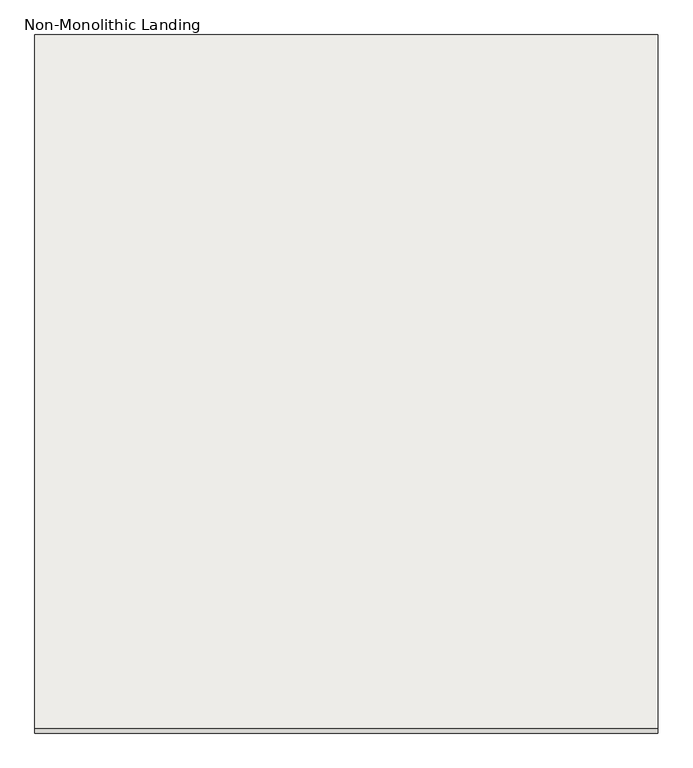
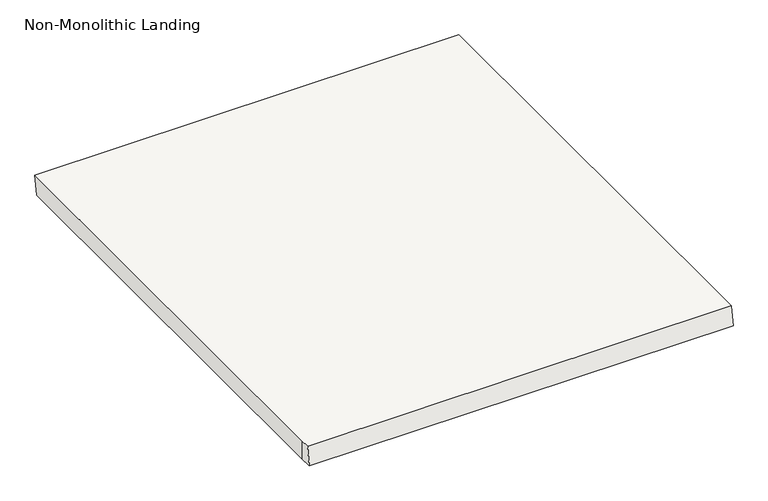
"""IFC4 building model written with IfcOpenShell, lengths in millimetres: slab geometry, Non-Monolithic Landing."""

import ifcopenshell
import ifcopenshell.guid

model = None  # the IFC model being written
_history = None  # IfcOwnerHistory: only IFC2X3 demands one
_inside = {}  # id of a spatial element -> (the spatial element, [elements in it])
_under = {}  # id of a project, library or spatial element -> (it, [spatial elements below it])
_declared = {}  # id of a project -> (the project, [libraries it declares])
_typed = {}  # id of a type object -> (the type object, [elements of that type])
_made_of = {}  # id of a material, layer set ... -> (it, [elements and type objects made of it])


def new_model(schema):
    """Start an empty IFC model of exactly this schema.

    Asked for "IFC4X3", IfcOpenShell would pick the latest addendum, in which some entities
    have other attributes; the version numbers below select the first issue.
    IFC2X3 requires an IfcOwnerHistory on every rooted entity: one is made here for all.
    """
    global model, _history
    if schema == "IFC4X3":
        model = ifcopenshell.file(schema_version=(4, 3, 0, 0))
    else:
        model = ifcopenshell.file(schema=schema)
    _inside.clear()
    _under.clear()
    _declared.clear()
    _typed.clear()
    _made_of.clear()
    _history = None
    if model.schema == "IFC2X3":
        org = make("IfcOrganization", Name="unknown")
        user = make(
            "IfcPersonAndOrganization",
            ThePerson=make("IfcPerson", FamilyName="unknown"),
            TheOrganization=org,
        )
        app = make(
            "IfcApplication",
            ApplicationDeveloper=org,
            Version="unknown",
            ApplicationFullName="unknown",
            ApplicationIdentifier="unknown",
        )
        _history = make(
            "IfcOwnerHistory",
            OwningUser=user,
            OwningApplication=app,
            ChangeAction="ADDED",
            CreationDate=0,
        )
    return model


def make(cls, **values):
    """One entity of the class cls with the attributes given. An attribute that is None is left unset."""
    return model.create_entity(
        cls, **{name: value for name, value in values.items() if value is not None}
    )


def rooted(cls, **values):
    """An entity with a GlobalId (a new one), such as an element, a storey or a relation."""
    return make(cls, GlobalId=ifcopenshell.guid.new(), OwnerHistory=_history, **values)


def si_unit(unit_type, name, prefix=None):
    """IfcSIUnit, for example si_unit("LENGTHUNIT", "METRE", prefix="MILLI")."""
    return make("IfcSIUnit", UnitType=unit_type, Prefix=prefix, Name=name)


def assignment(units):
    """IfcUnitAssignment: the units of a project."""
    return None if units is None else make("IfcUnitAssignment", Units=units)


def point(xyz):
    """IfcCartesianPoint."""
    return None if xyz is None else make("IfcCartesianPoint", Coordinates=xyz)


def direction(xyz):
    """IfcDirection."""
    return None if xyz is None else make("IfcDirection", DirectionRatios=xyz)


def frame(location, z_axis=None, x_axis=None):
    """IfcAxis2Placement3D, a coordinate frame: its origin and axes. An axis left out is left unset."""
    return make(
        "IfcAxis2Placement3D",
        Location=point(location),
        Axis=direction(z_axis),
        RefDirection=direction(x_axis),
    )


def origin():
    """The frame at (0, 0, 0) with its axes left unset."""
    return frame((0.0, 0.0, 0.0))


def place(relative_to, where):
    """IfcLocalPlacement: puts the frame where relative to a parent placement (None: the world)."""
    return make(
        "IfcLocalPlacement", PlacementRelTo=relative_to, RelativePlacement=where
    )


def context(
    kind, dimensions, precision=None, world=None, true_north=None, identifier=None
):
    """IfcGeometricRepresentationContext, for example the 3D "Model" context."""
    return make(
        "IfcGeometricRepresentationContext",
        ContextIdentifier=identifier,
        ContextType=kind,
        CoordinateSpaceDimension=dimensions,
        Precision=precision,
        WorldCoordinateSystem=world,
        TrueNorth=true_north,
    )


def project(units=None, contexts=None):
    """IfcProject with its units and contexts."""
    return rooted(
        "IfcProject",
        Name="project",
        RepresentationContexts=contexts,
        UnitsInContext=assignment(units),
    )


def spatial(cls, under=None, at=None, **own):
    """A site, building, storey or space (cls), placed at a placement, below another one or the project."""
    s = rooted(cls, ObjectPlacement=at, **own)
    if under is not None:
        _under.setdefault(under.id(), (under, []))[1].append(s)
    return s


def faces_of(points, faces, orient=None, outer=None):
    """IfcFace entities. A face is a list of loops; a loop is a list of indices into points, from 0.

    orient and outer hold one flag for each loop. By default every Orientation is true, the
    first loop of a face is its IfcFaceOuterBound and the others are IfcFaceBound.
    """
    made = []
    for i, loops in enumerate(faces):
        bounds = []
        for j, loop in enumerate(loops):
            is_outer = j == 0 if outer is None else outer[i][j]
            bounds.append(
                make(
                    "IfcFaceOuterBound" if is_outer else "IfcFaceBound",
                    Bound=make("IfcPolyLoop", Polygon=[points[k] for k in loop]),
                    Orientation=True if orient is None else orient[i][j],
                )
            )
        made.append(make("IfcFace", Bounds=bounds))
    return made


def faceted_brep(points, faces, orient=None, outer=None, voids=None):
    """IfcFacetedBrep: a solid bounded by flat faces; with voids (closed shells), ...WithVoids."""
    shared = [point(p) for p in points]
    hull = make("IfcClosedShell", CfsFaces=faces_of(shared, faces, orient, outer))
    if voids is None:
        return make("IfcFacetedBrep", Outer=hull)
    return make(
        "IfcFacetedBrepWithVoids",
        Outer=hull,
        Voids=[
            make(cls, CfsFaces=faces_of(shared, fs, o, b)) for cls, fs, o, b in voids
        ],
    )


def shape(context_of_items, identifier, shape_type, items):
    """IfcShapeRepresentation: the items that make up one representation, for example the "Body"."""
    return make(
        "IfcShapeRepresentation",
        ContextOfItems=context_of_items,
        RepresentationIdentifier=identifier,
        RepresentationType=shape_type,
        Items=items,
    )


def source(mapping_origin, context_of_items, identifier, shape_type, items):
    """IfcRepresentationMap: a shape defined once, which mapped items show again and again."""
    return make(
        "IfcRepresentationMap",
        MappingOrigin=mapping_origin,
        MappedRepresentation=shape(context_of_items, identifier, shape_type, items),
    )


def transform(
    local_origin,
    x_axis=None,
    y_axis=None,
    z_axis=None,
    scale=None,
    scale2=None,
    scale3=None,
    uniform=True,
):
    """IfcCartesianTransformationOperator3D, or its non-uniform kind. x_axis, y_axis, z_axis: its Axis1, 2, 3."""
    if uniform:
        return make(
            "IfcCartesianTransformationOperator3D",
            Axis1=direction(x_axis),
            Axis2=direction(y_axis),
            LocalOrigin=point(local_origin),
            Scale=scale,
            Axis3=direction(z_axis),
        )
    return make(
        "IfcCartesianTransformationOperator3DnonUniform",
        Axis1=direction(x_axis),
        Axis2=direction(y_axis),
        LocalOrigin=point(local_origin),
        Scale=scale,
        Axis3=direction(z_axis),
        Scale2=scale2,
        Scale3=scale3,
    )


def mapped(mapping_source, mapping_target):
    """IfcMappedItem: shows the shape of a source again, moved by a transform."""
    return make(
        "IfcMappedItem", MappingSource=mapping_source, MappingTarget=mapping_target
    )


def made_of(thing, what):
    """Note that an element or type object is made of a material, layer set ...; save() writes the relation."""
    if what is not None:
        _made_of.setdefault(what.id(), (what, []))[1].append(thing)
    return thing


def element(
    cls,
    number,
    at=None,
    inside=None,
    cuts=None,
    type_object=None,
    material=None,
    context=None,
    identifier="Body",
    shape_type=None,
    held_by="IfcProductDefinitionShape",
    body=None,
    shapes=None,
    **own,
):
    """One element of the class cls, such as IfcWall. Its Tag is "e" and its number.

    at: its placement. inside: the storey or other place that contains it. cuts: it is an
    opening in that element (IfcRelVoidsElement). A single representation is given by context,
    identifier, shape_type and body (its items); several are given by shapes. held_by: the class
    of the entity that holds the representations. save() writes the other relations.
    """
    e = rooted(cls, Tag="e%d" % number, ObjectPlacement=at, **own)
    if body is not None:
        shapes = [shape(context, identifier, shape_type, body)]
    if shapes is not None:
        e.Representation = make(held_by, Representations=shapes)
    if inside is not None:
        _inside.setdefault(inside.id(), (inside, []))[1].append(e)
    if cuts is not None:
        rooted(
            "IfcRelVoidsElement", RelatingBuildingElement=cuts, RelatedOpeningElement=e
        )
    if type_object is not None:
        _typed.setdefault(type_object.id(), (type_object, []))[1].append(e)
    return made_of(e, material)


def aggregate(whole, parts):
    """IfcRelAggregates: a whole, such as a stair, and the parts it consists of."""
    return rooted("IfcRelAggregates", RelatingObject=whole, RelatedObjects=parts)


def save(model, path):
    """Write the relations noted so far, then the file.

    IfcRelAggregates (storeys below a building ...), IfcRelContainedInSpatialStructure (elements
    in a storey), IfcRelDefinesByType, IfcRelAssociatesMaterial and IfcRelDeclares: one each for
    every whole, place, type object, material and project.
    """
    for whole, parts in _under.values():
        aggregate(whole, parts)
    for where, things in _inside.values():
        rooted(
            "IfcRelContainedInSpatialStructure",
            RelatedElements=things,
            RelatingStructure=where,
        )
    for kind, things in _typed.values():
        rooted("IfcRelDefinesByType", RelatedObjects=things, RelatingType=kind)
    for what, things in _made_of.values():
        rooted("IfcRelAssociatesMaterial", RelatedObjects=things, RelatingMaterial=what)
    for by, libraries in _declared.values():
        rooted("IfcRelDeclares", RelatingContext=by, RelatedDefinitions=libraries)
    model.write(path)


def non_monolithic_landing_4b8d17eb(model_context):
    return source(origin(), model_context, "Body", "Brep", [
        faceted_brep([(2568.6567657, 2025.5392059, 1900.0), (2568.6567657, 2018.3023638, 1850.0), (3668.6567657, 2018.3023638, 1850.0), (3668.6567657, 2025.5392059, 1900.0), (2568.6567657, 3250.5392059, 1900.0), (2568.6567657, 2050.5392059, 1900.0), (3668.6567657, 2050.5392059, 1900.0), (3668.6567657, 3250.5392059, 1900.0), (2568.6567657, 2050.5392059, 1850.0), (2568.6567657, 3243.3023638, 1850.0), (3668.6567657, 3243.3023638, 1850.0), (3668.6567657, 2050.5392059, 1850.0)], [[[0, 1, 2, 3]], [[4, 5, 0, 3, 6, 7]], [[2, 1, 8, 9, 10, 11]], [[5, 4, 9, 8]], [[0, 5, 8, 1]], [[6, 3, 2, 11]], [[7, 6, 11, 10]], [[4, 7, 10, 9]]]),
    ])


if __name__ == "__main__":
    model = new_model("IFC4")
    model_context = context("Model", 3, world=origin())
    ifc_project = project(units=[si_unit("LENGTHUNIT", "METRE", prefix="MILLI")], contexts=[model_context])
    site = spatial("IfcSite", under=ifc_project)
    building = spatial("IfcBuilding", under=site)
    placement = place(None, origin())
    non_monolithic_landing_shape = non_monolithic_landing_4b8d17eb(model_context)
    element("IfcSlab", 1, ObjectType="Non-Monolithic Landing", at=placement, inside=building, context=model_context, shape_type="MappedRepresentation", body=[
        mapped(non_monolithic_landing_shape, transform((0.0, 0.0, 0.0), x_axis=(1.0, 0.0, 0.0), y_axis=(0.0, 1.0, 0.0), z_axis=(0.0, 0.0, 1.0))),
    ])
    save(model, "model.ifc")
